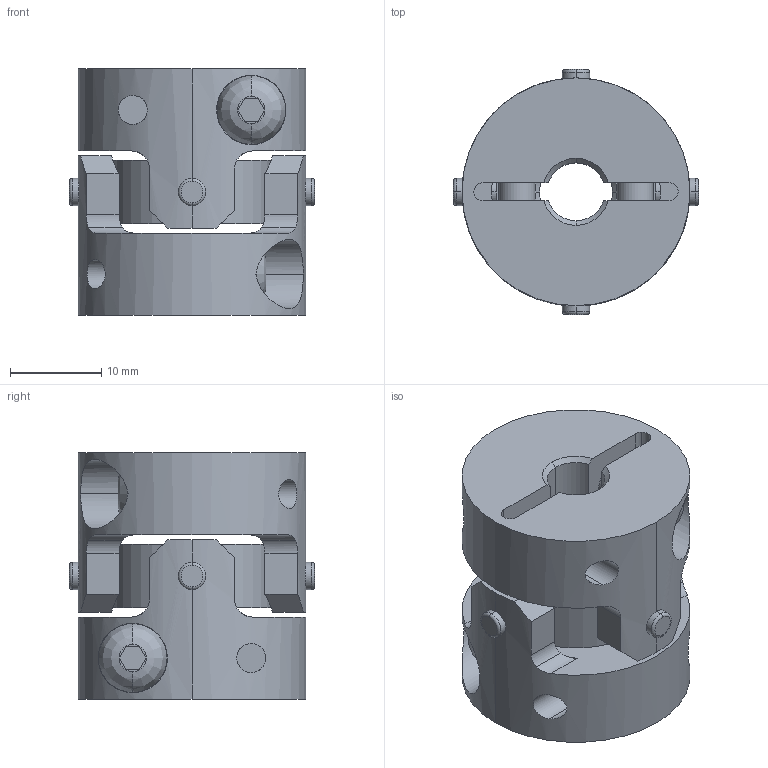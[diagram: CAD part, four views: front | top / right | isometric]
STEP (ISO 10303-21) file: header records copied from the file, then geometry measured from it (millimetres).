
FILE_DESCRIPTION((''),'2;1');
FILE_NAME('UA-25C-6.35×8.stp','2013-05-16T09:19:48',(''),(''),'AutoCAD STEP 2000i','AutoCAD 2000i',', , ');
FILE_SCHEMA(('CONFIG_CONTROL_DESIGN'));
Length unit declared in the file: millimetre
Products named in the file (6): UA-25C-5×5; 忣兜1; UA-2502-D05-1; BTN-M4; UA-2502-D05; UA25-SEN
Assembly tree (6 placements, depth 3):
  UA-25C-5×5
    忣兜1
    UA-2502-D05-1
      BTN-M4
    UA-2502-D05
      BTN-M4
    UA25-SEN
Bounding box: 26.89 x 26.89 x 27 mm (x, y, z)
Volume: 9181.5 mm3; surface area: 6474 mm2
Topology: 1 solids, 1 shells, 206 faces, 554 edges, 364 vertices
Faces by surface type: cylinder 96, plane 78, cone 16, bspline 8, torus 8
Entity records: 8291 total; most frequent: CARTESIAN_POINT 2975, ORIENTED_EDGE 1108, DIRECTION 1064, EDGE_CURVE 554, AXIS2_PLACEMENT_3D 409, VERTEX_POINT 364, VECTOR 246, LINE 246
